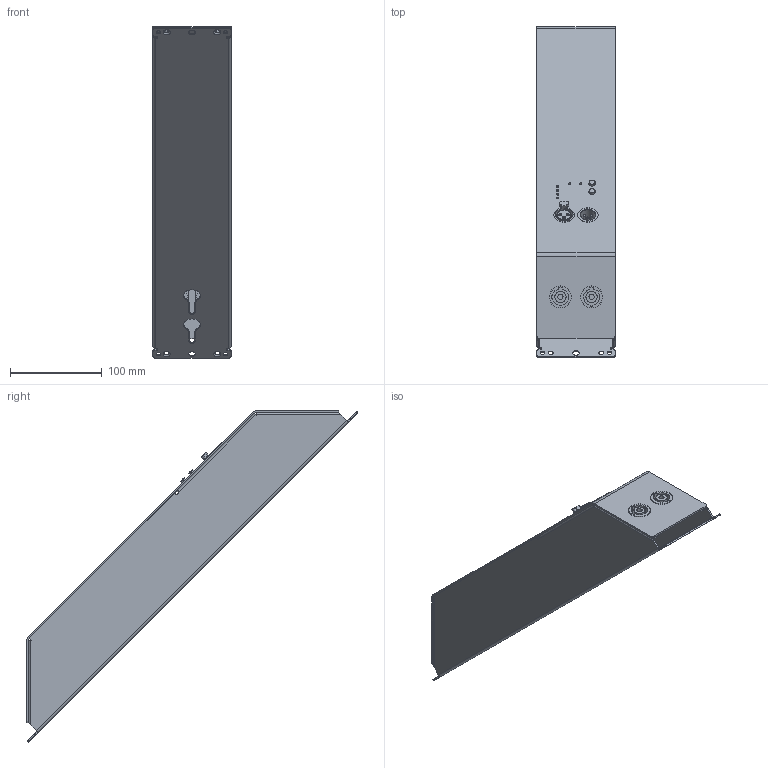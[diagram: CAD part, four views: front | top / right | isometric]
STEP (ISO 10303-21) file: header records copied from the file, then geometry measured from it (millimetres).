
FILE_DESCRIPTION (( 'STEP AP203' ), '1' );
FILE_NAME ('Powerstick.STEP', '2015-07-16T07:33:28', ( 'Michael Anter' ), ( 'SEEBURG acoustic line GmbH' ), 'SwSTEP 2.0', 'SolidWorks 2009', '' );
FILE_SCHEMA (( 'CONFIG_CONTROL_DESIGN' ));
Length unit declared in the file: millimetre
Products named in the file (6): Speakonbuchse; BlechGehäuse; neue_DSP_Plattform; PowerCon-blau; Powerstick-Abdeckung; Powerstick
Assembly tree (7 placements, depth 2):
  Powerstick
    Speakonbuchse  x3
    PowerCon-blau
    Powerstick-Abdeckung
    BlechGehäuse
    neue_DSP_Plattform
Bounding box: 85 x 361.62 x 361.62 mm (x, y, z)
Volume: 315169.2 mm3; surface area: 359036.4 mm2
Topology: 11 solids, 11 shells, 791 faces, 2042 edges, 1336 vertices
Faces by surface type: plane 404, cylinder 310, cone 49, torus 14, bspline 12, sphere 2
Entity records: 21440 total; most frequent: CARTESIAN_POINT 4909, DIRECTION 3411, ORIENTED_EDGE 3222, EDGE_CURVE 1611, AXIS2_PLACEMENT_3D 1231, VERTEX_POINT 1052, LINE 949, VECTOR 949
